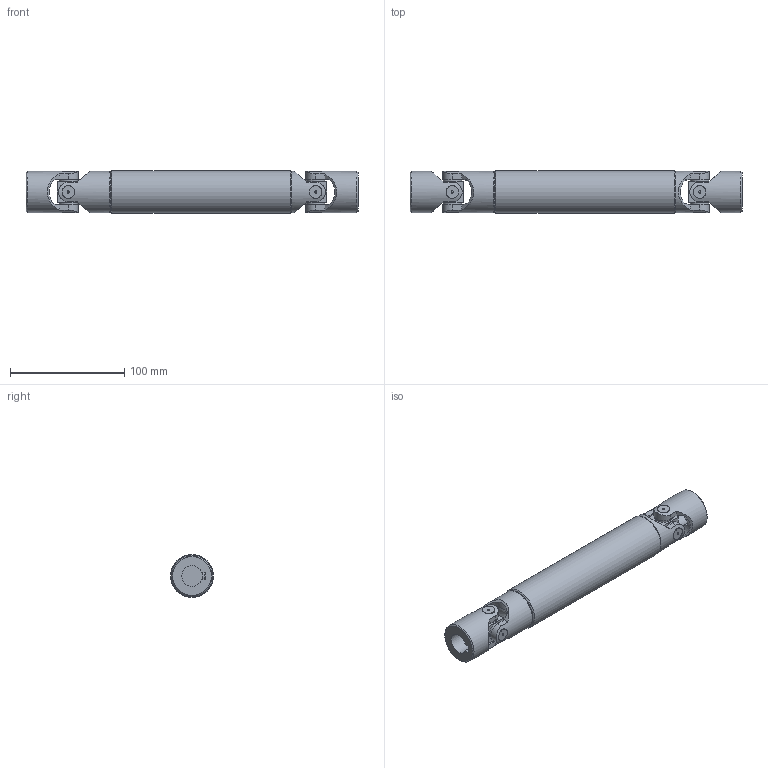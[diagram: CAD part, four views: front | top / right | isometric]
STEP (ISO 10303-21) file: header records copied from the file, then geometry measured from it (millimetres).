
FILE_DESCRIPTION(/* description */ (''),/* implementation_level */ '2;1');
FILE_NAME(/* name */ '\\SRV2016\Societa\Stefano\Disegni 3D\00Catalogo 3D\03Trasmissioni standard GA\2GA20\2GA20_SG0A1820.stp',/* time_stamp */ '2022-02-16T16:59:30+01:00',/* author */ ('acquisti'),/* organization */ (''),/* preprocessor_version */ 'ST-DEVELOPER v15.6',/* originating_system */ 'Autodesk Inventor 2015',/* authorisation */ '');
FILE_SCHEMA (('AUTOMOTIVE_DESIGN { 1 0 10303 214 3 1 1 }'));
Length unit declared in the file: millimetre
Products named in the file (5): 2G MOC; 2G SFE; 2GA20 LAI; 2GA20 LCI; 2GA20_SG0A1820
Assembly tree (6 placements, depth 2):
  2GA20_SG0A1820
    2G MOC  x2
    2G SFE  x2
    2GA20 LAI
    2GA20 LCI
Bounding box: 290 x 37.5 x 37.5 mm (x, y, z)
Volume: 216591 mm3; surface area: 75190.8 mm2
Topology: 6 solids, 6 shells, 228 faces, 561 edges, 369 vertices
Faces by surface type: plane 106, cylinder 93, cone 25, torus 4
Full cylindrical faces by diameter (mm): 2 x8, 16 x8, 18 x1, 20 x2, 31 x1, 36 x4, 37.5 x1
Entity records: 5813 total; most frequent: CARTESIAN_POINT 1703, DIRECTION 823, ORIENTED_EDGE 820, EDGE_CURVE 410, AXIS2_PLACEMENT_3D 335, VERTEX_POINT 286, EDGE_LOOP 224, FACE_OUTER_BOUND 176
